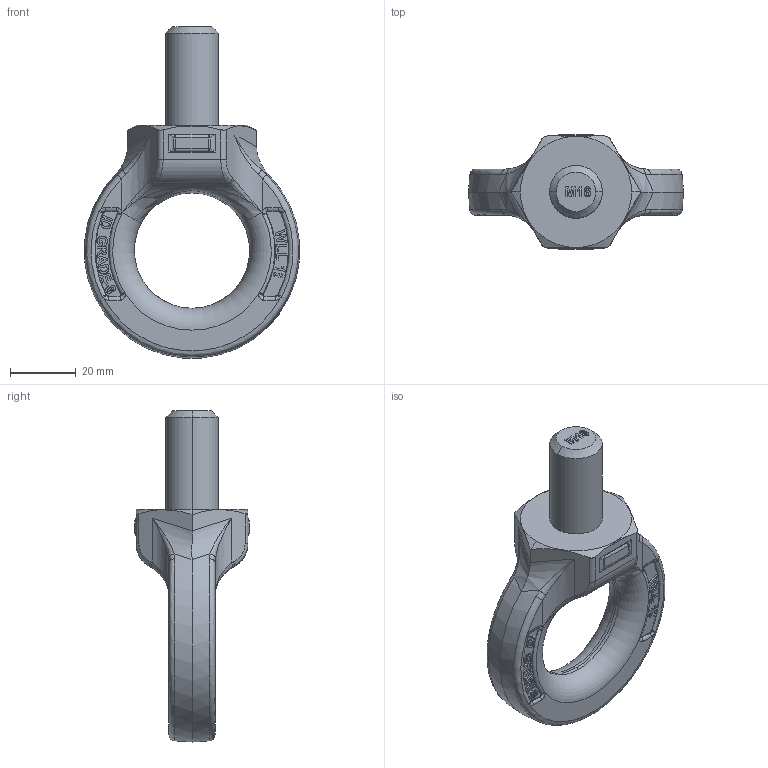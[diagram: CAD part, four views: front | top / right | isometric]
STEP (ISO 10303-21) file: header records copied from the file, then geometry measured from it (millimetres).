
FILE_DESCRIPTION (( 'STEP AP203' ), '1' );
FILE_NAME ('HTEB16.STEP', '2013-12-11T03:23:41', ( 'user' ), ( '' ), 'SwSTEP 2.0', 'SolidWorks 2003240', '' );
FILE_SCHEMA (( 'CONFIG_CONTROL_DESIGN' ));
Length unit declared in the file: millimetre
Products named in the file (1): HTEB16
Bounding box: 65.31 x 34.8 x 100.83 mm (x, y, z)
Volume: 49608.7 mm3; surface area: 11802.8 mm2
Topology: 1 solids, 1 shells, 606 faces, 1568 edges, 986 vertices
Faces by surface type: plane 314, bspline 170, cylinder 52, torus 52, cone 10, sphere 8
Entity records: 42194 total; most frequent: CARTESIAN_POINT 28555, ORIENTED_EDGE 3088, DIRECTION 2293, EDGE_CURVE 1544, VERTEX_POINT 986, VECTOR 945, LINE 945, AXIS2_PLACEMENT_3D 674
